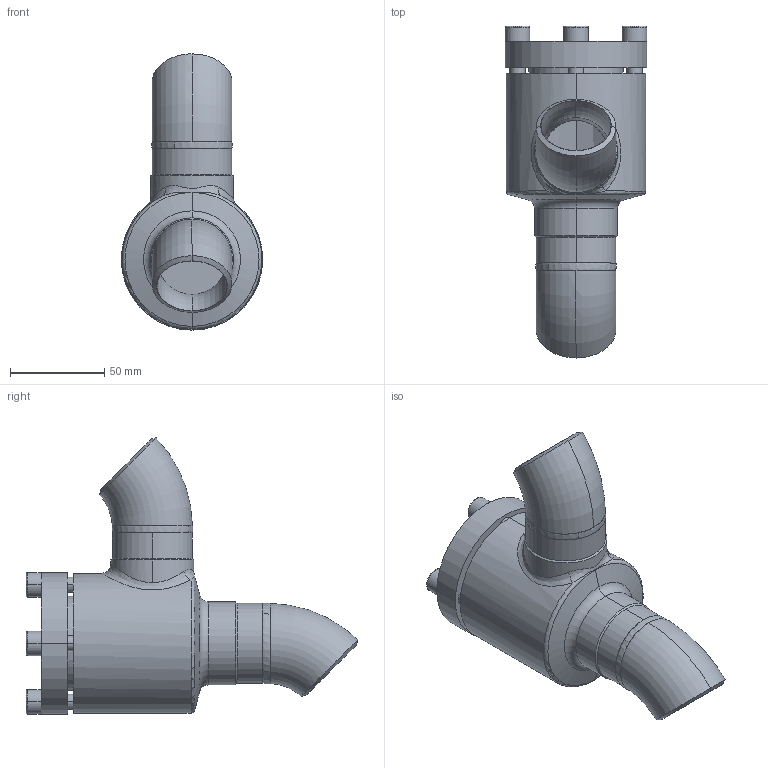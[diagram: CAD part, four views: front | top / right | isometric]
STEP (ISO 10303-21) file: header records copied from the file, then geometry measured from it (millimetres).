
FILE_DESCRIPTION (( 'STEP AP214' ), '1' );
FILE_NAME ('SS52300D13-DN032_R1_PS40.STEP', '2006-05-02T05:43:22', ( 'Herr Grams' ), ( 'AWP GmbH' ), 'SwSTEP 2.0', 'SolidWorks 2002296', '' );
FILE_SCHEMA (( 'AUTOMOTIVE_DESIGN' ));
Length unit declared in the file: millimetre
Products named in the file (9): SS52300D13-DN032_R1_PS40; Gehäuse-kpl16300-DN032_R1_Standard; Gehäuse16400-DN032_Standard; Rohrbogen 45°_R1-Fase_Rohrbogen-DN032-45°; bead16300-Geh-032-2_Standard; bead16300-Geh-032-1_Standard; SS52300E13_Deck+Schr-DN25-32_Standard; Deckel52300E13-DN25-32_Standard; Zylinderschraube-DIN912_M 8x 25
Assembly tree (12 placements, depth 3):
  SS52300D13-DN032_R1_PS40
    Gehäuse-kpl16300-DN032_R1_Standard
      bead16300-Geh-032-1_Standard
      Gehäuse16400-DN032_Standard
      Rohrbogen 45°_R1-Fase_Rohrbogen-DN032-45°  x2
      bead16300-Geh-032-2_Standard
    SS52300E13_Deck+Schr-DN25-32_Standard
      Zylinderschraube-DIN912_M 8x 25  x4
      Deckel52300E13-DN25-32_Standard
Bounding box: 75 x 175.93 x 146.43 mm (x, y, z)
Volume: 267166 mm3; surface area: 88552.9 mm2
Topology: 10 solids, 10 shells, 169 faces, 380 edges, 238 vertices
Faces by surface type: plane 53, cylinder 48, cone 38, torus 20, bspline 10
Entity records: 31846 total; most frequent: CARTESIAN_POINT 28876, DIRECTION 514, ORIENTED_EDGE 488, EDGE_CURVE 244, AXIS2_PLACEMENT_3D 216, VERTEX_POINT 152, EDGE_LOOP 124, ADVANCED_FACE 105
